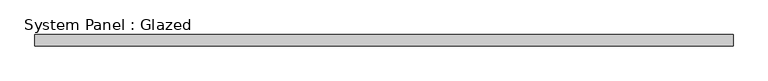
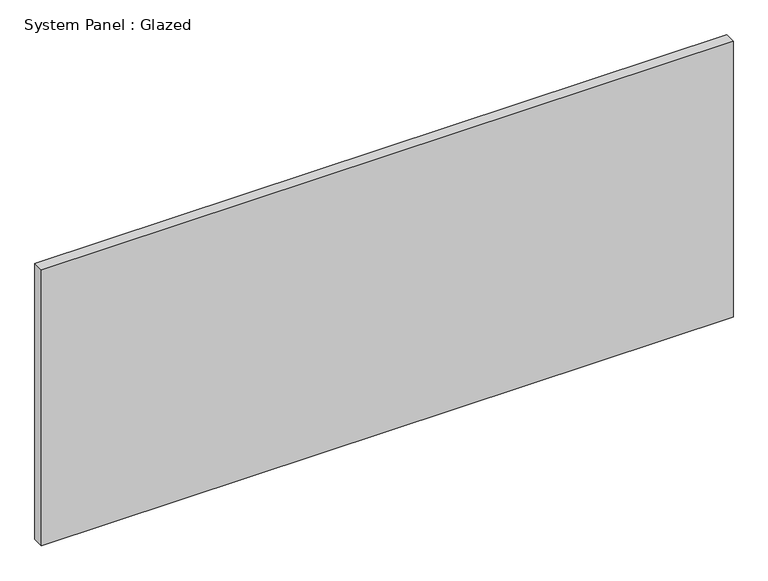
"""IFC4 building model written with IfcOpenShell, lengths in millimetres: plate geometry, System Panel : Glazed."""

import ifcopenshell
import ifcopenshell.guid

model = None  # the IFC model being written
_history = None  # IfcOwnerHistory: only IFC2X3 demands one
_inside = {}  # id of a spatial element -> (the spatial element, [elements in it])
_under = {}  # id of a project, library or spatial element -> (it, [spatial elements below it])
_declared = {}  # id of a project -> (the project, [libraries it declares])
_typed = {}  # id of a type object -> (the type object, [elements of that type])
_made_of = {}  # id of a material, layer set ... -> (it, [elements and type objects made of it])


def new_model(schema):
    """Start an empty IFC model of exactly this schema.

    Asked for "IFC4X3", IfcOpenShell would pick the latest addendum, in which some entities
    have other attributes; the version numbers below select the first issue.
    IFC2X3 requires an IfcOwnerHistory on every rooted entity: one is made here for all.
    """
    global model, _history
    if schema == "IFC4X3":
        model = ifcopenshell.file(schema_version=(4, 3, 0, 0))
    else:
        model = ifcopenshell.file(schema=schema)
    _inside.clear()
    _under.clear()
    _declared.clear()
    _typed.clear()
    _made_of.clear()
    _history = None
    if model.schema == "IFC2X3":
        org = make("IfcOrganization", Name="unknown")
        user = make(
            "IfcPersonAndOrganization",
            ThePerson=make("IfcPerson", FamilyName="unknown"),
            TheOrganization=org,
        )
        app = make(
            "IfcApplication",
            ApplicationDeveloper=org,
            Version="unknown",
            ApplicationFullName="unknown",
            ApplicationIdentifier="unknown",
        )
        _history = make(
            "IfcOwnerHistory",
            OwningUser=user,
            OwningApplication=app,
            ChangeAction="ADDED",
            CreationDate=0,
        )
    return model


def make(cls, **values):
    """One entity of the class cls with the attributes given. An attribute that is None is left unset."""
    return model.create_entity(
        cls, **{name: value for name, value in values.items() if value is not None}
    )


def rooted(cls, **values):
    """An entity with a GlobalId (a new one), such as an element, a storey or a relation."""
    return make(cls, GlobalId=ifcopenshell.guid.new(), OwnerHistory=_history, **values)


def si_unit(unit_type, name, prefix=None):
    """IfcSIUnit, for example si_unit("LENGTHUNIT", "METRE", prefix="MILLI")."""
    return make("IfcSIUnit", UnitType=unit_type, Prefix=prefix, Name=name)


def assignment(units):
    """IfcUnitAssignment: the units of a project."""
    return None if units is None else make("IfcUnitAssignment", Units=units)


def point(xyz):
    """IfcCartesianPoint."""
    return None if xyz is None else make("IfcCartesianPoint", Coordinates=xyz)


def direction(xyz):
    """IfcDirection."""
    return None if xyz is None else make("IfcDirection", DirectionRatios=xyz)


def frame(location, z_axis=None, x_axis=None):
    """IfcAxis2Placement3D, a coordinate frame: its origin and axes. An axis left out is left unset."""
    return make(
        "IfcAxis2Placement3D",
        Location=point(location),
        Axis=direction(z_axis),
        RefDirection=direction(x_axis),
    )


def origin():
    """The frame at (0, 0, 0) with its axes left unset."""
    return frame((0.0, 0.0, 0.0))


def origin_with_axes():
    """The frame at (0, 0, 0) with the z axis (0, 0, 1) and the x axis (1, 0, 0) written out."""
    return frame((0.0, 0.0, 0.0), z_axis=(0.0, 0.0, 1.0), x_axis=(1.0, 0.0, 0.0))


def place(relative_to, where):
    """IfcLocalPlacement: puts the frame where relative to a parent placement (None: the world)."""
    return make(
        "IfcLocalPlacement", PlacementRelTo=relative_to, RelativePlacement=where
    )


def context(
    kind, dimensions, precision=None, world=None, true_north=None, identifier=None
):
    """IfcGeometricRepresentationContext, for example the 3D "Model" context."""
    return make(
        "IfcGeometricRepresentationContext",
        ContextIdentifier=identifier,
        ContextType=kind,
        CoordinateSpaceDimension=dimensions,
        Precision=precision,
        WorldCoordinateSystem=world,
        TrueNorth=true_north,
    )


def project(units=None, contexts=None):
    """IfcProject with its units and contexts."""
    return rooted(
        "IfcProject",
        Name="project",
        RepresentationContexts=contexts,
        UnitsInContext=assignment(units),
    )


def spatial(cls, under=None, at=None, **own):
    """A site, building, storey or space (cls), placed at a placement, below another one or the project."""
    s = rooted(cls, ObjectPlacement=at, **own)
    if under is not None:
        _under.setdefault(under.id(), (under, []))[1].append(s)
    return s


def polyline(points):
    """IfcPolyline through the points."""
    return make("IfcPolyline", Points=[point(p) for p in points])


def outline(outer, holes=None, kind="AREA"):
    """IfcArbitraryClosedProfileDef: a profile drawn as a closed curve; with holes, ...WithVoids."""
    if holes is None:
        return make("IfcArbitraryClosedProfileDef", ProfileType=kind, OuterCurve=outer)
    return make(
        "IfcArbitraryProfileDefWithVoids",
        ProfileType=kind,
        OuterCurve=outer,
        InnerCurves=holes,
    )


def extrude(swept, where, along, depth):
    """IfcExtrudedAreaSolid: the profile swept, set in the frame where, extruded along a direction by depth."""
    return make(
        "IfcExtrudedAreaSolid",
        SweptArea=swept,
        Position=where,
        ExtrudedDirection=direction(along),
        Depth=depth,
    )


def shape(context_of_items, identifier, shape_type, items):
    """IfcShapeRepresentation: the items that make up one representation, for example the "Body"."""
    return make(
        "IfcShapeRepresentation",
        ContextOfItems=context_of_items,
        RepresentationIdentifier=identifier,
        RepresentationType=shape_type,
        Items=items,
    )


def source(mapping_origin, context_of_items, identifier, shape_type, items):
    """IfcRepresentationMap: a shape defined once, which mapped items show again and again."""
    return make(
        "IfcRepresentationMap",
        MappingOrigin=mapping_origin,
        MappedRepresentation=shape(context_of_items, identifier, shape_type, items),
    )


def transform(
    local_origin,
    x_axis=None,
    y_axis=None,
    z_axis=None,
    scale=None,
    scale2=None,
    scale3=None,
    uniform=True,
):
    """IfcCartesianTransformationOperator3D, or its non-uniform kind. x_axis, y_axis, z_axis: its Axis1, 2, 3."""
    if uniform:
        return make(
            "IfcCartesianTransformationOperator3D",
            Axis1=direction(x_axis),
            Axis2=direction(y_axis),
            LocalOrigin=point(local_origin),
            Scale=scale,
            Axis3=direction(z_axis),
        )
    return make(
        "IfcCartesianTransformationOperator3DnonUniform",
        Axis1=direction(x_axis),
        Axis2=direction(y_axis),
        LocalOrigin=point(local_origin),
        Scale=scale,
        Axis3=direction(z_axis),
        Scale2=scale2,
        Scale3=scale3,
    )


def mapped(mapping_source, mapping_target):
    """IfcMappedItem: shows the shape of a source again, moved by a transform."""
    return make(
        "IfcMappedItem", MappingSource=mapping_source, MappingTarget=mapping_target
    )


def made_of(thing, what):
    """Note that an element or type object is made of a material, layer set ...; save() writes the relation."""
    if what is not None:
        _made_of.setdefault(what.id(), (what, []))[1].append(thing)
    return thing


def element(
    cls,
    number,
    at=None,
    inside=None,
    cuts=None,
    type_object=None,
    material=None,
    context=None,
    identifier="Body",
    shape_type=None,
    held_by="IfcProductDefinitionShape",
    body=None,
    shapes=None,
    **own,
):
    """One element of the class cls, such as IfcWall. Its Tag is "e" and its number.

    at: its placement. inside: the storey or other place that contains it. cuts: it is an
    opening in that element (IfcRelVoidsElement). A single representation is given by context,
    identifier, shape_type and body (its items); several are given by shapes. held_by: the class
    of the entity that holds the representations. save() writes the other relations.
    """
    e = rooted(cls, Tag="e%d" % number, ObjectPlacement=at, **own)
    if body is not None:
        shapes = [shape(context, identifier, shape_type, body)]
    if shapes is not None:
        e.Representation = make(held_by, Representations=shapes)
    if inside is not None:
        _inside.setdefault(inside.id(), (inside, []))[1].append(e)
    if cuts is not None:
        rooted(
            "IfcRelVoidsElement", RelatingBuildingElement=cuts, RelatedOpeningElement=e
        )
    if type_object is not None:
        _typed.setdefault(type_object.id(), (type_object, []))[1].append(e)
    return made_of(e, material)


def aggregate(whole, parts):
    """IfcRelAggregates: a whole, such as a stair, and the parts it consists of."""
    return rooted("IfcRelAggregates", RelatingObject=whole, RelatedObjects=parts)


def save(model, path):
    """Write the relations noted so far, then the file.

    IfcRelAggregates (storeys below a building ...), IfcRelContainedInSpatialStructure (elements
    in a storey), IfcRelDefinesByType, IfcRelAssociatesMaterial and IfcRelDeclares: one each for
    every whole, place, type object, material and project.
    """
    for whole, parts in _under.values():
        aggregate(whole, parts)
    for where, things in _inside.values():
        rooted(
            "IfcRelContainedInSpatialStructure",
            RelatedElements=things,
            RelatingStructure=where,
        )
    for kind, things in _typed.values():
        rooted("IfcRelDefinesByType", RelatedObjects=things, RelatingType=kind)
    for what, things in _made_of.values():
        rooted("IfcRelAssociatesMaterial", RelatedObjects=things, RelatingMaterial=what)
    for by, libraries in _declared.values():
        rooted("IfcRelDeclares", RelatingContext=by, RelatedDefinitions=libraries)
    model.write(path)


def system_panel_glazed_a4485813(model_context):
    return source(origin(), model_context, "Body", "SweptSolid", [
        extrude(outline(polyline([(790.575, 19.05), (-790.575, 19.05), (-790.575, 44.45), (790.575, 44.45), (790.575, 19.05)])), origin_with_axes(), (0.0, 0.0, 1.0), 666.75),
    ])


if __name__ == "__main__":
    model = new_model("IFC4")
    model_context = context("Model", 3, world=origin())
    ifc_project = project(units=[si_unit("LENGTHUNIT", "METRE", prefix="MILLI")], contexts=[model_context])
    site = spatial("IfcSite", under=ifc_project)
    building = spatial("IfcBuilding", under=site)
    placement = place(None, origin())
    system_panel_glazed_shape = system_panel_glazed_a4485813(model_context)
    element("IfcPlate", 1, ObjectType="System Panel : Glazed", at=placement, inside=building, context=model_context, shape_type="MappedRepresentation", body=[
        mapped(system_panel_glazed_shape, transform((0.0, 0.0, 0.0), x_axis=(1.0, 0.0, 0.0), y_axis=(0.0, 1.0, 0.0), z_axis=(0.0, 0.0, 1.0))),
    ])
    save(model, "model.ifc")
